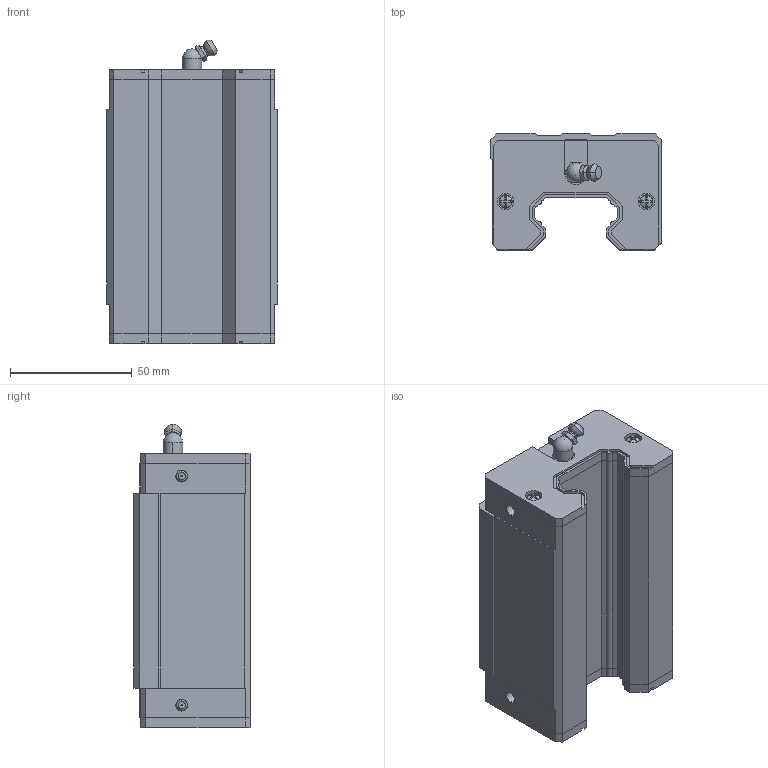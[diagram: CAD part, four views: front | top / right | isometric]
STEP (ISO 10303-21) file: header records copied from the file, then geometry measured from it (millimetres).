
FILE_DESCRIPTION (( 'STEP AP203' ), '1' );
FILE_NAME ('HGH35CA.STEP', '2021-10-22T07:51:52', ( '微软用户' ), ( '微软中国' ), 'SwSTEP 2.0', 'SolidWorks 2012', '' );
FILE_SCHEMA (( 'CONFIG_CONTROL_DESIGN' ));
Length unit declared in the file: millimetre
Products named in the file (1): HGH35CA
Bounding box: 70 x 47.6 x 124.4 mm (x, y, z)
Volume: 285125.7 mm3; surface area: 48515.2 mm2
Topology: 3 solids, 3 shells, 381 faces, 1004 edges, 657 vertices
Faces by surface type: plane 250, cylinder 76, cone 30, torus 20, sphere 5
Entity records: 12279 total; most frequent: CARTESIAN_POINT 2646, DIRECTION 1992, ORIENTED_EDGE 1986, EDGE_CURVE 993, VECTOR 670, LINE 670, AXIS2_PLACEMENT_3D 661, VERTEX_POINT 655
